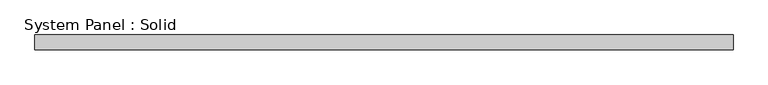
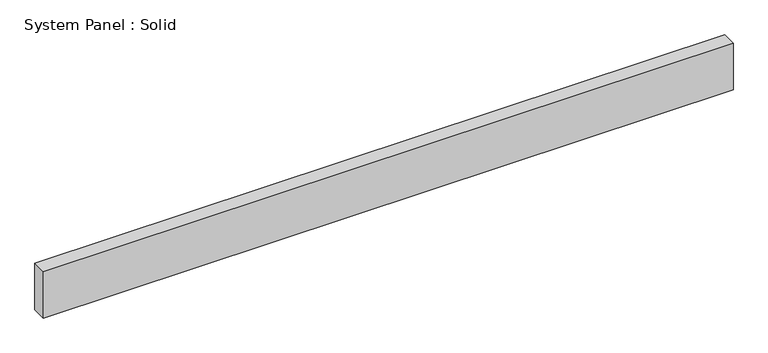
"""IFC4 building model written with IfcOpenShell, lengths in millimetres: plate geometry, System Panel : Solid."""

from ifc_helpers import new_model, si_unit, origin, origin_with_axes, place, context, project, spatial, polyline, outline, extrude, source, transform, mapped, element, save


def system_panel_solid_7f69ba4b(model_context):
    return source(origin(), model_context, "Body", "SweptSolid", [
        extrude(outline(polyline([(1476.375, -19.05), (-1476.375, -19.05), (-1476.375, 44.45), (1476.375, 44.45), (1476.375, -19.05)])), origin_with_axes(), (0.0, 0.0, 1.0), 209.55),
    ])


if __name__ == "__main__":
    model = new_model("IFC4")
    model_context = context("Model", 3, world=origin())
    ifc_project = project(units=[si_unit("LENGTHUNIT", "METRE", prefix="MILLI")], contexts=[model_context])
    site = spatial("IfcSite", under=ifc_project)
    building = spatial("IfcBuilding", under=site)
    placement = place(None, origin())
    system_panel_solid_shape = system_panel_solid_7f69ba4b(model_context)
    element("IfcPlate", 1, ObjectType="System Panel : Solid", at=placement, inside=building, context=model_context, shape_type="MappedRepresentation", body=[
        mapped(system_panel_solid_shape, transform((0.0, 0.0, 0.0), x_axis=(1.0, 0.0, 0.0), y_axis=(0.0, 1.0, 0.0), z_axis=(0.0, 0.0, 1.0))),
    ])
    save(model, "model.ifc")
